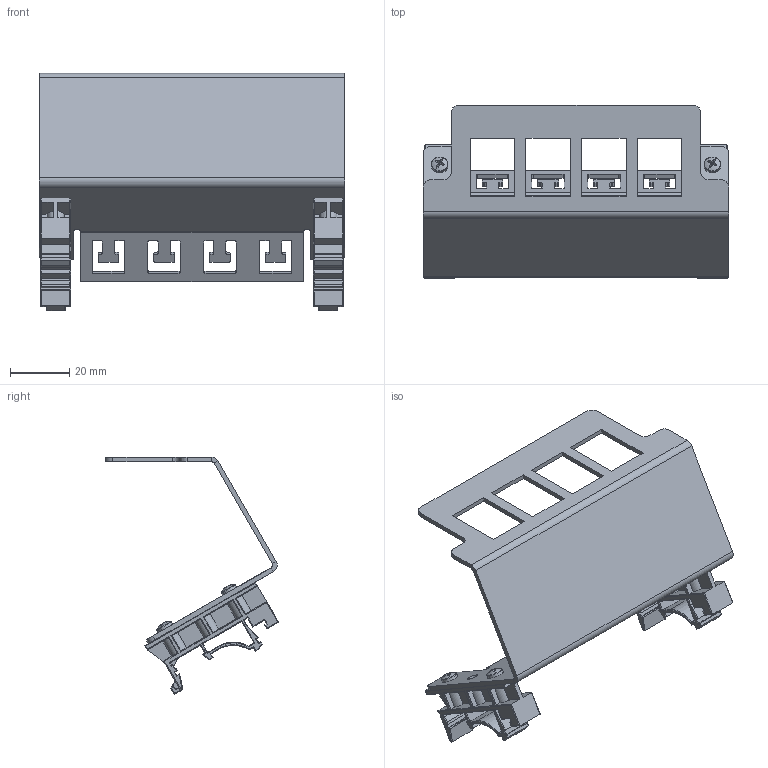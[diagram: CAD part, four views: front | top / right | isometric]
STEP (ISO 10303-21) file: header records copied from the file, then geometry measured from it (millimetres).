
FILE_DESCRIPTION (( 'STEP AP214' ), '1' );
FILE_NAME ('4 Port Panel.STEP', '2017-02-02T21:02:44', ( '' ), ( '' ), 'SwSTEP 2.0', 'SolidWorks 2015', '' );
FILE_SCHEMA (( 'AUTOMOTIVE_DESIGN' ));
Length unit declared in the file: millimetre
Products named in the file (4): pan cross head_ai_CR-PHMS 0.112-40x0.25x0.25-C, ZINC, STEEL; 100.18690.00; 100.18688.00; 4 Port Panel
Assembly tree (7 placements, depth 2):
  4 Port Panel
    100.18688.00
    100.18690.00  x2
    pan cross head_ai_CR-PHMS 0.112-40x0.25x0.25-C, ZINC, STEEL  x4
Bounding box: 102.7 x 58.22 x 79.77 mm (x, y, z)
Volume: 23129.8 mm3; surface area: 31961.5 mm2
Topology: 7 solids, 7 shells, 780 faces, 1898 edges, 1146 vertices
Faces by surface type: cylinder 398, plane 342, torus 26, sphere 12, bspline 2
Entity records: 13675 total; most frequent: CARTESIAN_POINT 2728, ORIENTED_EDGE 2292, DIRECTION 2211, EDGE_CURVE 1146, LINE 759, VECTOR 759, AXIS2_PLACEMENT_3D 726, VERTEX_POINT 705
